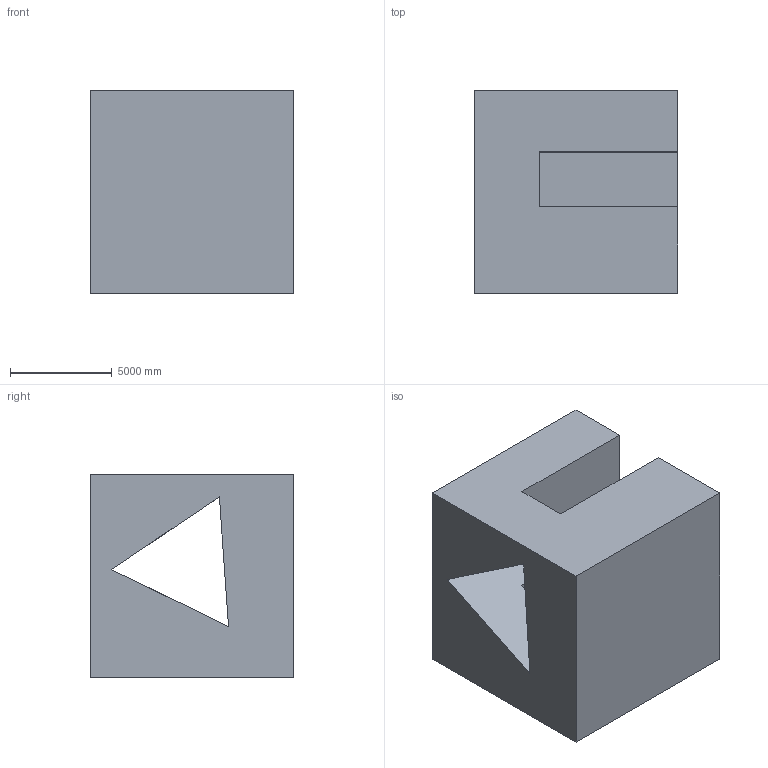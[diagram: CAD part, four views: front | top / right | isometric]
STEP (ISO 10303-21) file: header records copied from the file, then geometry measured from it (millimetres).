
FILE_DESCRIPTION (( 'STEP AP203' ), '1' );
FILE_NAME ('211.STEP', '2022-09-07T12:18:24', ( 'user' ), ( '' ), 'SwSTEP 2.0', 'SolidWorks 2021', '' );
FILE_SCHEMA (( 'CONFIG_CONTROL_DESIGN' ));
Length unit declared in the file: centimetre
Products named in the file (1): 211
Bounding box: 10000 x 10000 x 10000 mm (x, y, z)
Volume: 741460923825.2 mm3; surface area: 774318835 mm2
Topology: 1 solids, 1 shells, 16 faces, 45 edges, 30 vertices
Faces by surface type: plane 16
Entity records: 590 total; most frequent: CARTESIAN_POINT 92, ORIENTED_EDGE 90, DIRECTION 79, LINE 45, VECTOR 45, EDGE_CURVE 45, VERTEX_POINT 30, EDGE_LOOP 17
